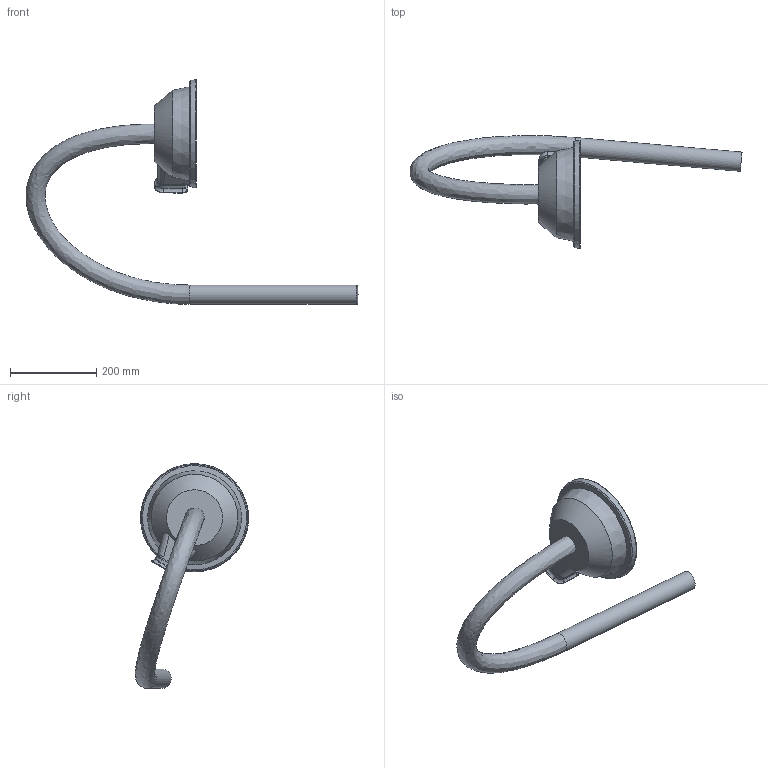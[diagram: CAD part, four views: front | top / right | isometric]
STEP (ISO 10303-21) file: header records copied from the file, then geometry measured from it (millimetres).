
FILE_DESCRIPTION (( 'STEP AP214' ), '1' );
FILE_NAME ('IRB6750S-ALL-OC_00_LINK03b_CABLE.step', '2026-05-13T05:39:42', ( '' ), ( '' ), 'SwSTEP 2.0', 'SolidWorks 2024', '' );
FILE_SCHEMA (( 'AUTOMOTIVE_DESIGN' ));
Length unit declared in the file: millimetre
Products named in the file (1): IRB6750S-ALL-OC_00_LINK03b_CABLE
Bounding box: 770.72 x 263.11 x 521.81 mm (x, y, z)
Volume: 5146896.6 mm3; surface area: 322076.2 mm2
Topology: 1 solids, 1 shells, 90 faces, 230 edges, 143 vertices
Faces by surface type: bspline 32, cylinder 19, plane 18, torus 13, cone 8
Full cylindrical faces by diameter (mm): 45 x1
Entity records: 6378 total; most frequent: CARTESIAN_POINT 3600, ORIENTED_EDGE 434, DIRECTION 273, EDGE_CURVE 217, VERTEX_POINT 138, AXIS2_PLACEMENT_3D 112, EDGE_LOOP 97, B_SPLINE_CURVE_WITH_KNOTS 94
